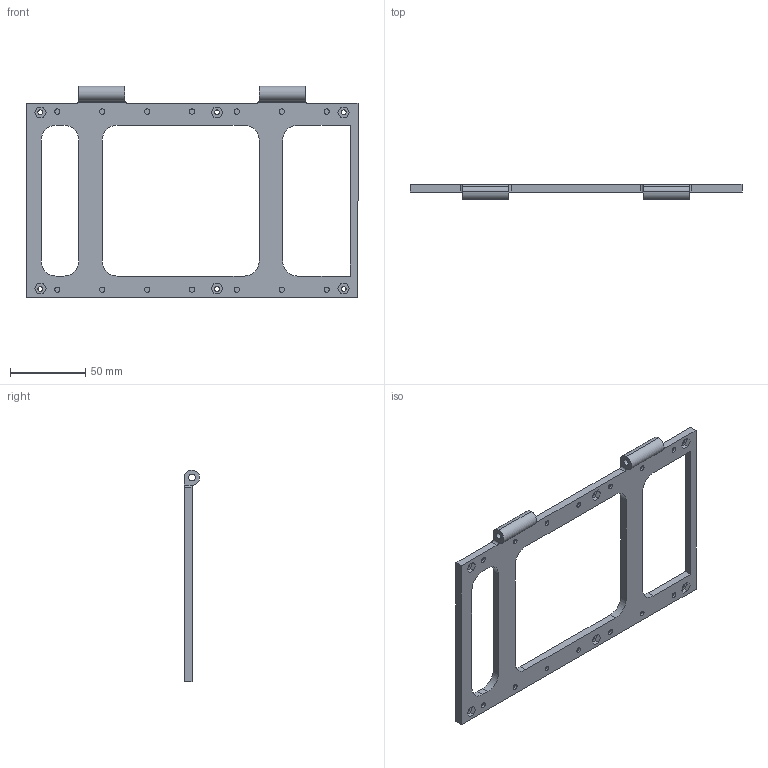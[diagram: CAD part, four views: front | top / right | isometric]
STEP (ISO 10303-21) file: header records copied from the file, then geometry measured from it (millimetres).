
FILE_DESCRIPTION (( 'STEP AP214' ), '1' );
FILE_NAME ('jetson_top_rim.STEP', '2015-02-27T02:27:50', ( '' ), ( '' ), '', '', '' );
FILE_SCHEMA (( '' ));
Length unit declared in the file: millimetre
Products named in the file (1): jetson_top_rim
Bounding box: 220 x 10 x 140.42 mm (x, y, z)
Volume: 58174.8 mm3; surface area: 34726.7 mm2
Topology: 1 solids, 1 shells, 188 faces, 456 edges, 304 vertices
Faces by surface type: plane 96, cylinder 92
Entity records: 5659 total; most frequent: DIRECTION 1006, CARTESIAN_POINT 997, ORIENTED_EDGE 912, EDGE_CURVE 456, AXIS2_PLACEMENT_3D 369, VERTEX_POINT 304, VECTOR 268, LINE 268
